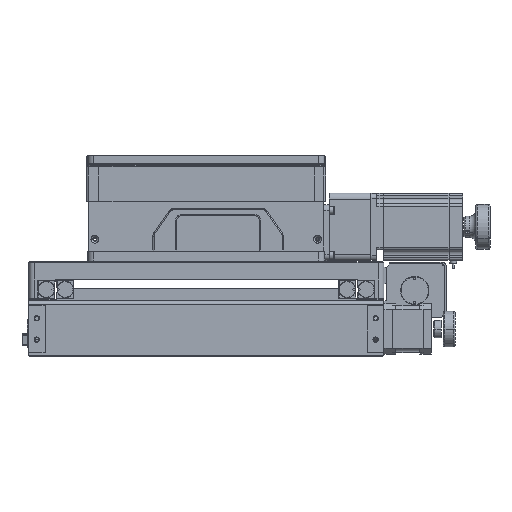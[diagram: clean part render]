
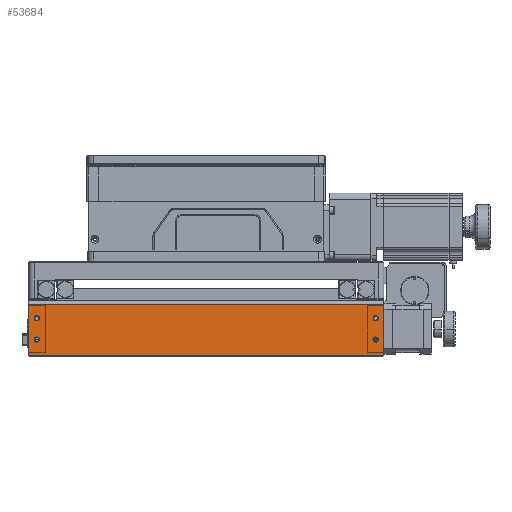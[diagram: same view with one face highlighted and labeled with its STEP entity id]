
A CAD part, top view. The second image highlights one B-rep face of the part: STEP entity #53684.
In plain terms, the highlighted planar face has unit normal (0, 0, 1).
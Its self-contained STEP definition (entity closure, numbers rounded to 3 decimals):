
#1191 = DIRECTION ( 'NONE',  ( 1., 0., 0. ) ) ;
#1476 = CIRCLE ( 'NONE', #30621, 2.25 ) ;
#1956 = CIRCLE ( 'NONE', #49316, 2.25 ) ;
#2444 = CARTESIAN_POINT ( 'NONE',  ( 330.767, 76.717, 345.279 ) ) ;
#3504 = CIRCLE ( 'NONE', #60639, 2.25 ) ;
#3515 = AXIS2_PLACEMENT_3D ( 'NONE', #60716, #8633, #54918 ) ;
#4052 = VERTEX_POINT ( 'NONE', #70618 ) ;
#5695 = EDGE_LOOP ( 'NONE', ( #22231, #34802 ) ) ;
#7469 = CARTESIAN_POINT ( 'NONE',  ( 190.017, 86.717, 345.279 ) ) ;
#8633 = DIRECTION ( 'NONE',  ( 0., 0., 1. ) ) ;
#9570 = FACE_BOUND ( 'NONE', #68596, .T. ) ;
#10306 = VERTEX_POINT ( 'NONE', #52171 ) ;
#11029 = VERTEX_POINT ( 'NONE', #83205 ) ;
#11844 = DIRECTION ( 'NONE',  ( -1., 0., 0. ) ) ;
#13908 = CIRCLE ( 'NONE', #80846, 2.25 ) ;
#15594 = DIRECTION ( 'NONE',  ( 0., 0., 1. ) ) ;
#16271 = EDGE_CURVE ( 'NONE', #27612, #18348, #1956, .T. ) ;
#16716 = DIRECTION ( 'NONE',  ( 0., 0., 1. ) ) ;
#16749 = EDGE_CURVE ( 'NONE', #76523, #85257, #53646, .T. ) ;
#16997 = CARTESIAN_POINT ( 'NONE',  ( 47.017, 76.717, 345.279 ) ) ;
#17224 = DIRECTION ( 'NONE',  ( 1., 0., 0. ) ) ;
#17412 = ORIENTED_EDGE ( 'NONE', *, *, #63550, .T. ) ;
#18348 = VERTEX_POINT ( 'NONE', #2444 ) ;
#18616 = CARTESIAN_POINT ( 'NONE',  ( 340.017, 63.717, 345.279 ) ) ;
#21114 = ORIENTED_EDGE ( 'NONE', *, *, #16749, .F. ) ;
#22231 = ORIENTED_EDGE ( 'NONE', *, *, #85776, .F. ) ;
#22491 = CARTESIAN_POINT ( 'NONE',  ( 49.267, 76.717, 345.279 ) ) ;
#22652 = VERTEX_POINT ( 'NONE', #18616 ) ;
#23312 = DIRECTION ( 'NONE',  ( 1., 0., 0. ) ) ;
#23515 = EDGE_CURVE ( 'NONE', #30609, #11029, #13908, .T. ) ;
#23882 = CARTESIAN_POINT ( 'NONE',  ( 47.017, 94.717, 345.279 ) ) ;
#24487 = ORIENTED_EDGE ( 'NONE', *, *, #16271, .F. ) ;
#26465 = LINE ( 'NONE', #75672, #53332 ) ;
#27612 = VERTEX_POINT ( 'NONE', #43887 ) ;
#27714 = PLANE ( 'NONE',  #75969 ) ;
#27759 = CARTESIAN_POINT ( 'NONE',  ( 330.767, 94.717, 345.279 ) ) ;
#27867 = DIRECTION ( 'NONE',  ( 1., 0., 0. ) ) ;
#28991 = CIRCLE ( 'NONE', #48977, 2.25 ) ;
#29307 = ORIENTED_EDGE ( 'NONE', *, *, #56358, .F. ) ;
#29430 = DIRECTION ( 'NONE',  ( 0., 0., 1. ) ) ;
#30433 = LINE ( 'NONE', #43965, #41769 ) ;
#30609 = VERTEX_POINT ( 'NONE', #22491 ) ;
#30621 = AXIS2_PLACEMENT_3D ( 'NONE', #47805, #73554, #27867 ) ;
#31108 = LINE ( 'NONE', #58151, #43527 ) ;
#31354 = FACE_BOUND ( 'NONE', #72228, .T. ) ;
#33048 = EDGE_CURVE ( 'NONE', #10306, #4052, #52839, .T. ) ;
#34802 = ORIENTED_EDGE ( 'NONE', *, *, #77954, .F. ) ;
#35033 = DIRECTION ( 'NONE',  ( 1., 0., 0. ) ) ;
#35568 = EDGE_CURVE ( 'NONE', #22652, #76523, #26465, .T. ) ;
#36076 = DIRECTION ( 'NONE',  ( -1., 0., 0. ) ) ;
#36502 = FACE_BOUND ( 'NONE', #57096, .T. ) ;
#36657 = CARTESIAN_POINT ( 'NONE',  ( 47.017, 94.717, 345.279 ) ) ;
#38290 = ORIENTED_EDGE ( 'NONE', *, *, #78244, .F. ) ;
#40411 = DIRECTION ( 'NONE',  ( 1., 0., 0. ) ) ;
#40500 = DIRECTION ( 'NONE',  ( 0., 0., 1. ) ) ;
#41769 = VECTOR ( 'NONE', #57550, 1000. ) ;
#42298 = AXIS2_PLACEMENT_3D ( 'NONE', #36657, #56597, #17224 ) ;
#43527 = VECTOR ( 'NONE', #11844, 1000. ) ;
#43887 = CARTESIAN_POINT ( 'NONE',  ( 335.267, 76.717, 345.279 ) ) ;
#43965 = CARTESIAN_POINT ( 'NONE',  ( 340.017, 63.717, 345.279 ) ) ;
#46322 = CARTESIAN_POINT ( 'NONE',  ( 333.017, 94.717, 345.279 ) ) ;
#46717 = EDGE_CURVE ( 'NONE', #4052, #10306, #48769, .T. ) ;
#47805 = CARTESIAN_POINT ( 'NONE',  ( 333.017, 76.717, 345.279 ) ) ;
#48769 = CIRCLE ( 'NONE', #42298, 2.25 ) ;
#48977 = AXIS2_PLACEMENT_3D ( 'NONE', #61855, #29430, #40411 ) ;
#49316 = AXIS2_PLACEMENT_3D ( 'NONE', #61066, #15594, #35033 ) ;
#51258 = CARTESIAN_POINT ( 'NONE',  ( 335.267, 94.717, 345.279 ) ) ;
#51834 = ORIENTED_EDGE ( 'NONE', *, *, #67618, .F. ) ;
#52171 = CARTESIAN_POINT ( 'NONE',  ( 49.267, 94.717, 345.279 ) ) ;
#52730 = CARTESIAN_POINT ( 'NONE',  ( 340.017, 106.217, 345.279 ) ) ;
#52839 = CIRCLE ( 'NONE', #66376, 2.25 ) ;
#53332 = VECTOR ( 'NONE', #36076, 1000. ) ;
#53646 = LINE ( 'NONE', #67304, #84624 ) ;
#53684 = ADVANCED_FACE ( 'NONE', ( #31354, #36502, #9570, #64435, #77868 ), #27714, .T. ) ;
#54918 = DIRECTION ( 'NONE',  ( 1., 0., 0. ) ) ;
#56006 = DIRECTION ( 'NONE',  ( 0., 0., 1. ) ) ;
#56358 = EDGE_CURVE ( 'NONE', #11029, #30609, #28991, .T. ) ;
#56597 = DIRECTION ( 'NONE',  ( 0., 0., 1. ) ) ;
#57096 = EDGE_LOOP ( 'NONE', ( #62873, #29307 ) ) ;
#57509 = ORIENTED_EDGE ( 'NONE', *, *, #33048, .F. ) ;
#57550 = DIRECTION ( 'NONE',  ( 0., -1., 0. ) ) ;
#58151 = CARTESIAN_POINT ( 'NONE',  ( 340.017, 106.217, 345.279 ) ) ;
#60639 = AXIS2_PLACEMENT_3D ( 'NONE', #46322, #40500, #1191 ) ;
#60716 = CARTESIAN_POINT ( 'NONE',  ( 333.017, 94.717, 345.279 ) ) ;
#61066 = CARTESIAN_POINT ( 'NONE',  ( 333.017, 76.717, 345.279 ) ) ;
#61855 = CARTESIAN_POINT ( 'NONE',  ( 47.017, 76.717, 345.279 ) ) ;
#62873 = ORIENTED_EDGE ( 'NONE', *, *, #23515, .F. ) ;
#63192 = VERTEX_POINT ( 'NONE', #52730 ) ;
#63550 = EDGE_CURVE ( 'NONE', #63192, #85257, #31108, .T. ) ;
#63741 = VERTEX_POINT ( 'NONE', #27759 ) ;
#63968 = CIRCLE ( 'NONE', #3515, 2.25 ) ;
#64196 = VERTEX_POINT ( 'NONE', #51258 ) ;
#64344 = CARTESIAN_POINT ( 'NONE',  ( 40.017, 63.717, 345.279 ) ) ;
#64435 = FACE_BOUND ( 'NONE', #5695, .T. ) ;
#66172 = DIRECTION ( 'NONE',  ( 0., 0., 1. ) ) ;
#66376 = AXIS2_PLACEMENT_3D ( 'NONE', #23882, #56006, #23312 ) ;
#66460 = DIRECTION ( 'NONE',  ( 1., 0., 0. ) ) ;
#67304 = CARTESIAN_POINT ( 'NONE',  ( 40.017, 63.717, 345.279 ) ) ;
#67618 = EDGE_CURVE ( 'NONE', #18348, #27612, #1476, .T. ) ;
#68596 = EDGE_LOOP ( 'NONE', ( #24487, #51834 ) ) ;
#68806 = DIRECTION ( 'NONE',  ( 1., 0., 0. ) ) ;
#70618 = CARTESIAN_POINT ( 'NONE',  ( 44.767, 94.717, 345.279 ) ) ;
#72228 = EDGE_LOOP ( 'NONE', ( #57509, #82155 ) ) ;
#73358 = EDGE_LOOP ( 'NONE', ( #38290, #17412, #21114, #84376 ) ) ;
#73554 = DIRECTION ( 'NONE',  ( 0., 0., 1. ) ) ;
#75672 = CARTESIAN_POINT ( 'NONE',  ( 340.017, 63.717, 345.279 ) ) ;
#75969 = AXIS2_PLACEMENT_3D ( 'NONE', #7469, #66172, #66460 ) ;
#76523 = VERTEX_POINT ( 'NONE', #64344 ) ;
#77435 = CARTESIAN_POINT ( 'NONE',  ( 40.017, 106.217, 345.279 ) ) ;
#77868 = FACE_OUTER_BOUND ( 'NONE', #73358, .T. ) ;
#77954 = EDGE_CURVE ( 'NONE', #63741, #64196, #3504, .T. ) ;
#78244 = EDGE_CURVE ( 'NONE', #63192, #22652, #30433, .T. ) ;
#80021 = DIRECTION ( 'NONE',  ( 0., 1., 0. ) ) ;
#80846 = AXIS2_PLACEMENT_3D ( 'NONE', #16997, #16716, #68806 ) ;
#82155 = ORIENTED_EDGE ( 'NONE', *, *, #46717, .F. ) ;
#83205 = CARTESIAN_POINT ( 'NONE',  ( 44.767, 76.717, 345.279 ) ) ;
#84376 = ORIENTED_EDGE ( 'NONE', *, *, #35568, .F. ) ;
#84624 = VECTOR ( 'NONE', #80021, 1000. ) ;
#85257 = VERTEX_POINT ( 'NONE', #77435 ) ;
#85776 = EDGE_CURVE ( 'NONE', #64196, #63741, #63968, .T. ) ;
